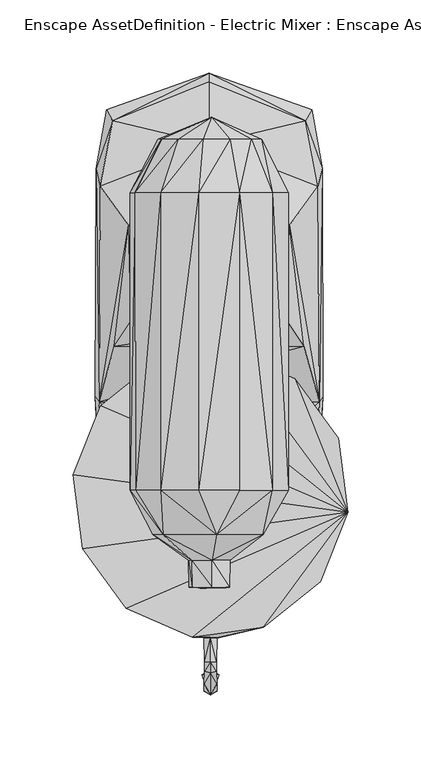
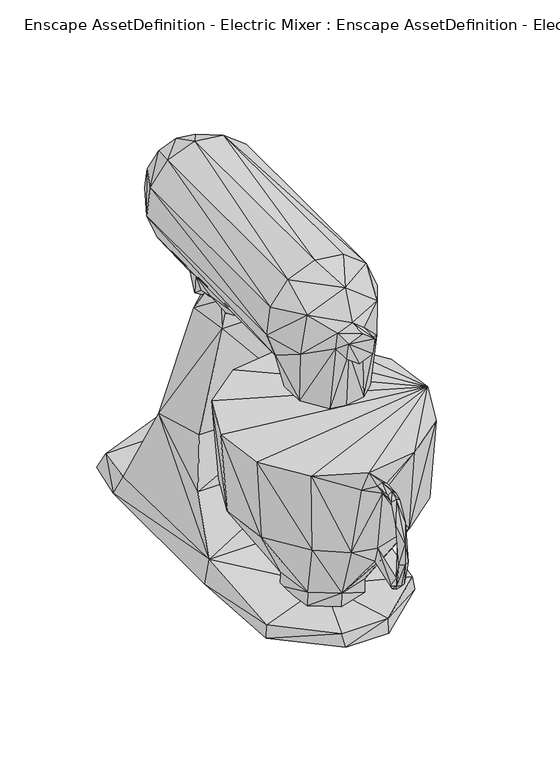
"""IFC4 building model written with IfcOpenShell, lengths in millimetres: geographic element geometry, Enscape AssetDefinition - Electric Mixer : Enscape AssetDefinition - Electric Mixer."""

from ifc_helpers import new_model, si_unit, origin, place, context, project, spatial, faceted_brep, source, transform, mapped, element, save


def enscape_assetdefinition_electric_mixer_enscape_68bc694c(model_context):
    return source(origin(), model_context, "Body", "Brep", [
        faceted_brep([(-33.2406573, -68.5679317, 36.0244252), (5.5046063, -48.0164327, 22.1636649), (-33.55534, -68.6163455, 22.1636649), (5.4658754, -47.9002409, 36.0244252), (37.9077084, -78.0230686, 22.1636649), (-28.4138378, -105.6865007, 36.0244252), (-28.6849514, -105.6090444, 22.1636649), (-4.1248235, -121.1933196, 22.1636649), (37.5688151, -78.0037045, 36.0244252), (23.6305911, -112.4934331, 22.1636649), (-4.0764101, -121.32404, 36.0244252), (-81.3829601, -118.9905033, 119.9200451), (-53.4484163, -156.7384452, 119.300358), (-87.4007493, -71.3516995, 119.9200451), (-92.987664, -70.0154901, 200.1168877), (-86.5825638, -120.6656098, 200.1168877), (-23.4320965, -170.9235758, 114.9867103), (-56.7356907, -161.2166911, 200.0684738), (94.8176906, -95.7714319, 200.1168877), (-74.2274597, -22.8172466, 200.1168877), (-69.7588995, -26.9565936, 119.9200451), (-35.3321135, 8.2835369, 200.1168877), (-33.1777185, 2.2947963, 119.9200451), (13.2749602, 14.954906, 200.1168877), (55.1428832, -9.8182419, 119.9200451), (83.212994, -47.9341298, 119.9200451), (58.5705563, -4.5944336, 200.1168877), (88.4174332, -45.1213084, 200.1168877), (89.2356187, -95.5729336, 119.9200451), (23.4224126, -112.5950962, 36.0244252), (71.588926, -139.9680376, 119.9200451), (76.0574862, -142.9745108, 200.1168877), (35.6952138, -167.3748791, 116.8361157), (4.3378426, -175.0048399, 101.1307985), (37.1621437, -174.1672903, 199.8699605), (0.9150137, -182.5912297, 175.2807945), (0.9150137, -174.268961, 112.9775643), (5.4610339, -181.4244539, 183.3706796), (-11.4449328, -180.9306443, 199.6230632), (0.9150137, -202.0195276, 175.0822961), (4.8994385, -197.8511363, 183.482036), (0.9150137, -181.4825535, 185.9849989), (0.9150137, -197.696209, 186.4884943), (5.0930921, -204.3191791, 180.2431792), (-3.069411, -197.8511363, 183.482036), (-3.6310067, -181.4244539, 183.3706796), (-3.2582232, -204.3191791, 180.2431792), (0.9150137, -205.3309977, 182.6493144), (5.4561929, -212.7576172, 162.5044942), (-3.6261654, -212.7576172, 162.5044942), (0.9150137, -220.213294, 145.3419328), (-16.9737451, -177.6191592, 181.7004085), (-2.5078154, -175.0048399, 101.1307985), (-2.9677427, -205.3648978, 91.2738219), (0.9150137, -205.573082, 89.6519721), (0.9150137, -174.7143567, 99.4605348), (4.7977702, -205.3648978, 91.2738219), (4.6767369, -212.5397623, 98.4486938), (0.9150137, -213.4305835, 97.6643935), (-2.8467092, -212.5397623, 98.4486938), (0.9150137, -205.2874416, 100.7531732), (6.724624, -206.4880878, 95.7714319), (-4.889756, -206.4880878, 95.7714319), (-3.6503721, -217.8652436, 123.4203354), (0.9150137, -220.2520221, 123.5752627), (5.4803994, -217.8652436, 123.4203354), (0.9150137, -208.2697004, 142.1563327)], [[[0, 1, 2]], [[1, 0, 3]], [[3, 4, 1]], [[4, 2, 1]], [[5, 2, 6]], [[2, 5, 0]], [[2, 4, 7]], [[2, 7, 6]], [[4, 3, 8]], [[8, 9, 4]], [[7, 4, 9]], [[10, 6, 7]], [[9, 10, 7]], [[6, 10, 5]], [[11, 0, 5]], [[10, 12, 5]], [[11, 5, 12]], [[0, 11, 13]], [[14, 11, 15]], [[11, 14, 13]], [[12, 15, 11]], [[12, 10, 16]], [[16, 17, 12]], [[15, 12, 17]], [[18, 15, 17]], [[15, 18, 14]], [[19, 13, 14]], [[18, 19, 14]], [[13, 19, 20]], [[20, 0, 13]], [[21, 20, 19]], [[19, 18, 21]], [[20, 3, 0]], [[3, 20, 22]], [[20, 21, 22]], [[23, 22, 21]], [[18, 23, 21]], [[24, 22, 23]], [[3, 22, 24]], [[25, 3, 24]], [[3, 25, 8]], [[26, 25, 24]], [[24, 23, 26]], [[23, 18, 26]], [[25, 26, 27]], [[18, 27, 26]], [[27, 28, 25]], [[28, 8, 25]], [[9, 8, 29]], [[30, 8, 28]], [[8, 30, 29]], [[18, 30, 28]], [[28, 27, 18]], [[31, 32, 30]], [[30, 18, 31]], [[32, 29, 30]], [[10, 9, 29]], [[33, 29, 32]], [[29, 33, 10]], [[32, 31, 34]], [[34, 35, 32]], [[36, 33, 32]], [[32, 35, 36]], [[18, 34, 31]], [[35, 34, 37]], [[34, 38, 37]], [[18, 38, 34]], [[37, 39, 35]], [[39, 37, 40]], [[41, 40, 37]], [[38, 41, 37]], [[40, 41, 42]], [[42, 43, 40]], [[43, 39, 40]], [[41, 44, 42]], [[44, 41, 45]], [[41, 38, 45]], [[46, 42, 44]], [[42, 46, 47]], [[43, 42, 47]], [[48, 43, 47]], [[43, 48, 39]], [[46, 49, 47]], [[50, 47, 49]], [[47, 50, 48]], [[49, 46, 39]], [[39, 46, 44]], [[45, 39, 44]], [[39, 45, 35]], [[45, 51, 35]], [[51, 45, 38]], [[36, 35, 16]], [[16, 35, 51]], [[17, 16, 51]], [[51, 38, 17]], [[38, 18, 17]], [[10, 52, 16]], [[16, 52, 36]], [[53, 36, 52]], [[52, 54, 53]], [[54, 52, 55]], [[10, 55, 52]], [[55, 10, 33]], [[33, 54, 55]], [[36, 56, 33]], [[54, 33, 56]], [[57, 54, 56]], [[54, 57, 58]], [[59, 54, 58]], [[54, 59, 53]], [[56, 36, 60]], [[56, 61, 57]], [[61, 56, 60]], [[36, 53, 60]], [[62, 60, 53]], [[53, 59, 62]], [[60, 62, 59]], [[63, 60, 59]], [[64, 59, 58]], [[59, 64, 63]], [[57, 64, 58]], [[64, 57, 65]], [[64, 50, 63]], [[50, 64, 65]], [[60, 63, 66]], [[49, 63, 50]], [[63, 49, 66]], [[65, 48, 50]], [[57, 66, 65]], [[48, 65, 66]], [[66, 57, 60]], [[66, 39, 48]], [[39, 66, 49]], [[61, 60, 57]]]),
        faceted_brep([(53.1966649, 35.2885425, 122.7667555), (-25.8430857, 43.4607305, 217.8168297), (-53.1966649, 35.2885425, 122.7667555), (25.8430857, 43.4607305, 217.8168297), (-54.9201854, 100.5449966, 105.5896729), (-31.3815773, 81.8961486, 218.1315124), (-20.8080895, 47.0142737, 229.131043), (-18.6004378, 58.7835796, 235.5942428), (-64.8401007, 17.7725665, 78.439422), (64.8401007, 17.7725665, 78.439422), (-75.3458068, -19.9802183, 35.0610018), (75.3458068, -19.9802183, 35.0610018), (54.9201854, 100.5449966, 105.5896729), (0.0, -83.9585587, 20.9678523), (-71.2306648, -110.7650697, 20.7015797), (-77.9456124, -16.8623962, 7.7655129), (-74.4695291, 127.0561963, 30.8296662), (-77.3936957, 138.9126331, 7.5282869), (-22.7833577, -153.8481712, 20.7451507), (-72.7702081, -112.4256477, 8.254488), (0.0, -4.9962653, 7.8962296), (-65.8228919, 171.8046963, 24.4875085), (-70.1849386, 179.178074, 7.3878886), (0.0, 156.1381221, 37.9900113), (0.0, 198.2868463, 23.4950334), (0.0, 204.193294, 8.4384596), (65.8228919, 171.8046963, 24.4875085), (70.1849386, 179.178074, 7.3878886), (77.3936957, 138.9126331, 7.5282869), (74.4695291, 127.0561963, 30.8296662), (77.9456124, -16.8623962, 7.7655129), (71.2306648, -110.7650697, 20.7015797), (72.7702081, -112.4256477, 8.254488), (21.2631747, -157.7018797, 8.1576621), (-21.2631747, -157.7018797, 8.1576621), (22.7833577, -153.8481712, 20.7451507), (0.0, 124.4418621, 108.5041612), (-14.6063296, 98.032333, 217.7635729), (14.6063296, 98.032333, 217.7635729), (31.3815773, 81.8961486, 218.1315124), (-18.6004378, 80.0177082, 235.5942428), (-14.6063296, 92.5180465, 229.1455716), (14.6063296, 92.5180465, 229.1455716), (18.6004378, 80.0177082, 235.5942428), (18.6004378, 58.7835796, 235.5942428), (20.8080895, 47.0142737, 229.131043)], [[[0, 1, 2]], [[1, 0, 3]], [[1, 4, 2]], [[4, 1, 5]], [[3, 6, 1]], [[7, 5, 1]], [[6, 7, 1]], [[8, 0, 2]], [[4, 8, 2]], [[0, 8, 9]], [[10, 9, 8]], [[4, 10, 8]], [[9, 10, 11]], [[11, 12, 9]], [[0, 9, 12]], [[10, 13, 11]], [[10, 14, 13]], [[15, 14, 10]], [[10, 4, 16]], [[10, 17, 15]], [[17, 10, 16]], [[14, 18, 13]], [[19, 18, 14]], [[14, 15, 19]], [[20, 15, 17]], [[19, 15, 20]], [[17, 21, 22]], [[21, 17, 16]], [[20, 17, 22]], [[4, 23, 16]], [[23, 21, 16]], [[21, 23, 24]], [[21, 25, 22]], [[25, 21, 24]], [[25, 20, 22]], [[26, 25, 24]], [[25, 26, 27]], [[20, 25, 27]], [[23, 26, 24]], [[28, 26, 29]], [[26, 28, 27]], [[26, 23, 29]], [[28, 20, 27]], [[11, 28, 29]], [[28, 11, 30]], [[30, 20, 28]], [[12, 11, 29]], [[23, 12, 29]], [[31, 11, 13]], [[31, 30, 11]], [[30, 31, 32]], [[32, 20, 30]], [[33, 20, 32]], [[34, 20, 33]], [[19, 20, 34]], [[35, 32, 31]], [[32, 35, 33]], [[35, 31, 13]], [[18, 35, 13]], [[35, 34, 33]], [[34, 35, 18]], [[18, 19, 34]], [[23, 4, 36]], [[12, 23, 36]], [[5, 36, 4]], [[36, 37, 38]], [[36, 5, 37]], [[36, 39, 12]], [[39, 36, 38]], [[40, 37, 5]], [[5, 7, 40]], [[41, 38, 37]], [[37, 40, 41]], [[38, 41, 42]], [[43, 38, 42]], [[38, 43, 39]], [[40, 42, 41]], [[42, 40, 43]], [[7, 43, 40]], [[43, 7, 44]], [[6, 44, 7]], [[44, 39, 43]], [[44, 6, 45]], [[39, 44, 3]], [[3, 44, 45]], [[6, 3, 45]], [[3, 12, 39]], [[12, 3, 0]]]),
        faceted_brep([(-14.0011618, -128.5763532, 297.4084914), (-33.2987495, -101.067856, 233.21715), (-16.8769192, -123.5219985, 233.21715), (-38.2223949, -111.0458672, 289.2944217), (-45.6102826, -80.3420767, 272.3012865), (-33.8893943, -75.3119141, 233.21715), (36.0583141, -91.0898522, 233.21715), (-1.8251861, -129.1912198, 288.8441384), (-2.4206711, -126.170218, 233.21715), (16.8381874, -122.873269, 233.21715), (11.83224, -128.7409663, 294.0486073), (-13.6574255, -146.9976753, 297.5585759), (-1.7816139, -147.5931555, 289.1878784), (36.2664945, -111.0410318, 283.0103636), (30.0695766, -111.0071391, 233.21715), (14.1464015, -128.4553409, 309.0761304), (11.5417596, -147.1574306, 294.2712903), (-11.846764, -146.881476, 312.3198152), (-12.1420873, -128.4553409, 312.5376701), (1.951061, -146.881476, 318.0325925), (13.7978252, -146.881476, 308.9405596), (1.9994744, -128.4553409, 318.395704), (36.8522964, -111.0458672, 318.4731603), (-31.6430107, -111.0458672, 327.4925947), (5.2092844, -111.0458672, 342.7573442), (-54.106839, -80.739066, 296.0867882), (-50.4177362, -80.739066, 324.0987957), (-33.2212895, -80.739066, 346.509397), (-54.1746169, 122.6989776, 296.0819602), (-50.4855141, 122.6989776, 324.1230249), (-33.2648605, 122.6989776, 346.5626538), (-7.1216146, -80.739066, 357.3152423), (-7.1312971, 122.6989776, 357.3878706), (-21.1905558, 159.0042114, 330.237627), (-4.129665, 159.0042114, 337.3011649), (-32.4273109, 159.0042114, 315.592587), (1.5008161, 174.2108613, 299.5580435), (14.1706085, 159.0042114, 334.8901868), (20.9145993, 122.6989776, 353.6939323), (20.8855495, -80.739066, 353.6309898), (43.2961211, -80.739066, 336.4297152), (43.3542207, 122.6989776, 336.4732862), (28.820511, 159.0042114, 323.6533999), (35.8840264, 159.0042114, 306.597352), (54.106839, -80.739066, 310.3300333), (54.1794598, 122.6989776, 310.3397191), (50.8825071, -80.6616023, 282.787621), (50.4951999, 122.6892918, 282.3083401), (33.4778801, 158.9993536, 288.297087), (26.0076895, 158.9703113, 276.5616775), (42.6086523, -80.1048502, 267.9973543), (39.045427, 122.6457208, 264.3227577), (31.1007835, -64.2542914, 255.9762895), (29.1158333, -67.4060062, 233.21715), (-22.2266018, -60.7152693, 233.21715), (13.7881422, -55.9610762, 233.21715), (10.5541255, -50.3886901, 247.9687035), (-21.0356321, -55.0073273, 251.0381043), (-32.5725488, -66.1085248, 256.7654252), (0.0, 16.7946145, 243.5582429), (-24.6908441, 19.1620328, 244.8605746), (24.695687, 19.1620328, 244.8605746), (0.0, 47.7307923, 228.3177078), (-20.1883968, 48.5296175, 229.1213721), (-21.5633381, 69.1392049, 233.9046001), (-25.5622864, 88.6837021, 244.8750883), (-43.4074737, 122.6650849, 269.9919641), (-21.1566649, 122.5198433, 252.4421215), (-25.6542731, 98.0129689, 243.7712699), (-27.80867, 158.979997, 280.2604437), (-34.8383002, 159.0042114, 297.2874641), (-13.2894851, 158.8880122, 268.8058317), (0.522865, 158.936426, 265.9542859), (14.3303731, 158.8880122, 268.8058317), (0.0, 122.5924566, 248.0703741), (21.161506, 122.5198433, 252.4421215), (0.0, 105.8849916, 242.3769683), (25.6591123, 98.0129689, 243.7712699), (0.0, 98.7682268, 217.6958025), (22.638116, 95.7520679, 222.3822176), (25.5622864, 88.6837021, 244.8750883), (21.5633381, 69.1392049, 233.9046001), (22.3912075, 91.6514471, 227.0250618), (-22.633275, 95.7520679, 222.3822176), (-22.0862031, 86.0451758, 230.7093143), (20.1932397, 48.5296175, 229.1213721)], [[[0, 1, 2]], [[1, 0, 3]], [[1, 4, 5]], [[4, 1, 3]], [[6, 2, 1]], [[6, 1, 5]], [[2, 7, 0]], [[7, 2, 8]], [[6, 8, 2]], [[9, 7, 8]], [[7, 9, 10]], [[11, 7, 12]], [[7, 11, 0]], [[10, 12, 7]], [[6, 9, 8]], [[13, 9, 14]], [[9, 13, 10]], [[6, 14, 9]], [[13, 15, 10]], [[12, 10, 16]], [[15, 16, 10]], [[17, 11, 12]], [[17, 12, 16]], [[17, 0, 11]], [[0, 17, 18]], [[19, 18, 17]], [[17, 16, 20]], [[17, 20, 19]], [[16, 15, 20]], [[20, 21, 19]], [[21, 20, 15]], [[15, 13, 22]], [[22, 21, 15]], [[21, 23, 18]], [[23, 21, 24]], [[21, 22, 24]], [[18, 19, 21]], [[18, 3, 0]], [[3, 18, 23]], [[23, 25, 3]], [[25, 23, 26]], [[26, 23, 27]], [[24, 27, 23]], [[4, 3, 25]], [[28, 4, 25]], [[25, 29, 28]], [[29, 25, 26]], [[26, 30, 29]], [[30, 26, 27]], [[27, 24, 31]], [[27, 32, 30]], [[32, 27, 31]], [[33, 29, 30]], [[34, 30, 32]], [[30, 34, 33]], [[35, 28, 29]], [[29, 33, 35]], [[36, 35, 33]], [[36, 33, 34]], [[32, 37, 34]], [[36, 34, 37]], [[31, 38, 32]], [[37, 32, 38]], [[24, 39, 31]], [[38, 31, 39]], [[40, 38, 39]], [[38, 40, 41]], [[42, 38, 41]], [[38, 42, 37]], [[36, 37, 42]], [[41, 43, 42]], [[36, 42, 43]], [[44, 41, 40]], [[41, 44, 45]], [[43, 41, 45]], [[22, 44, 40]], [[40, 24, 22]], [[24, 40, 39]], [[22, 46, 44]], [[46, 45, 44]], [[45, 46, 47]], [[48, 45, 47]], [[45, 48, 43]], [[36, 43, 48]], [[47, 49, 48]], [[36, 48, 49]], [[50, 47, 46]], [[47, 50, 51]], [[49, 47, 51]], [[13, 50, 46]], [[46, 22, 13]], [[13, 6, 50]], [[6, 52, 50]], [[51, 50, 52]], [[6, 13, 14]], [[52, 6, 53]], [[6, 54, 55]], [[6, 5, 54]], [[6, 55, 53]], [[56, 53, 55]], [[53, 56, 52]], [[55, 57, 56]], [[57, 55, 54]], [[5, 57, 54]], [[5, 4, 58]], [[57, 5, 58]], [[59, 56, 57]], [[59, 57, 60]], [[60, 57, 58]], [[61, 52, 56]], [[61, 56, 59]], [[62, 61, 59]], [[59, 63, 62]], [[63, 59, 60]], [[60, 64, 63]], [[64, 60, 65]], [[60, 66, 65]], [[66, 60, 58]], [[66, 58, 4]], [[4, 28, 66]], [[66, 67, 68]], [[68, 65, 66]], [[69, 67, 66]], [[70, 66, 28]], [[66, 70, 69]], [[28, 35, 70]], [[36, 69, 70]], [[36, 70, 35]], [[67, 69, 71]], [[36, 71, 69]], [[36, 72, 71]], [[36, 73, 72]], [[36, 49, 73]], [[71, 74, 67]], [[74, 71, 72]], [[72, 75, 74]], [[75, 72, 73]], [[73, 51, 75]], [[51, 73, 49]], [[75, 76, 74]], [[76, 75, 77]], [[77, 75, 51]], [[76, 67, 74]], [[78, 68, 76]], [[77, 78, 76]], [[67, 76, 68]], [[78, 77, 79]], [[80, 79, 77]], [[51, 80, 77]], [[52, 80, 51]], [[80, 52, 61]], [[61, 81, 80]], [[82, 80, 81]], [[79, 80, 82]], [[82, 78, 79]], [[81, 64, 82]], [[78, 82, 64]], [[68, 78, 83]], [[64, 83, 78]], [[83, 65, 68]], [[65, 83, 84]], [[83, 64, 84]], [[64, 62, 63]], [[81, 62, 64]], [[64, 65, 84]], [[81, 61, 85]], [[62, 81, 85]], [[61, 62, 85]]]),
    ])


if __name__ == "__main__":
    model = new_model("IFC4")
    model_context = context("Model", 3, world=origin())
    ifc_project = project(units=[si_unit("LENGTHUNIT", "METRE", prefix="MILLI")], contexts=[model_context])
    site = spatial("IfcSite", under=ifc_project)
    building = spatial("IfcBuilding", under=site)
    placement = place(None, origin())
    enscape_assetdefinition_electric_mixer_enscape_shape = enscape_assetdefinition_electric_mixer_enscape_68bc694c(model_context)
    element("IfcGeographicElement", 1, ObjectType="Enscape AssetDefinition - Electric Mixer : Enscape AssetDefinition - Electric Mixer", at=placement, inside=building, context=model_context, shape_type="MappedRepresentation", body=[
        mapped(enscape_assetdefinition_electric_mixer_enscape_shape, transform((0.0, 0.0, 0.0), x_axis=(1.0, 0.0, 0.0), y_axis=(0.0, 1.0, 0.0), z_axis=(0.0, 0.0, 1.0))),
    ])
    save(model, "model.ifc")
